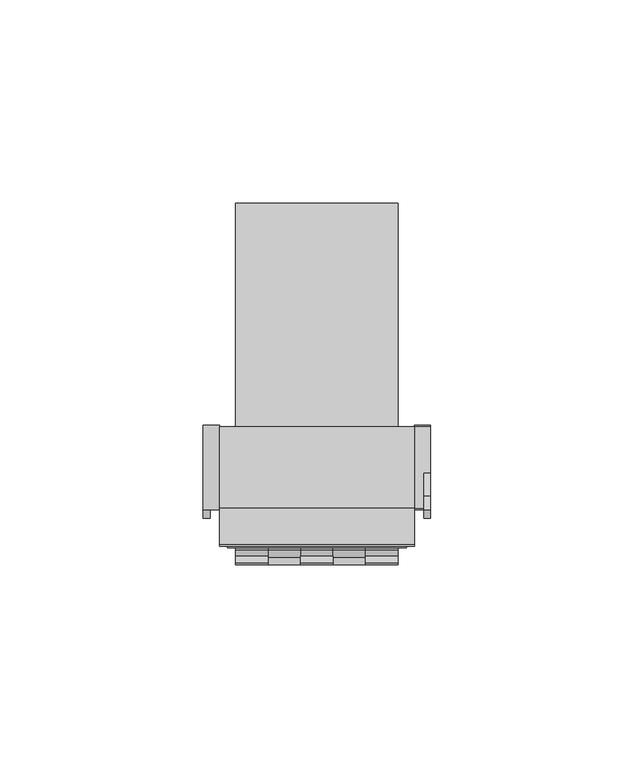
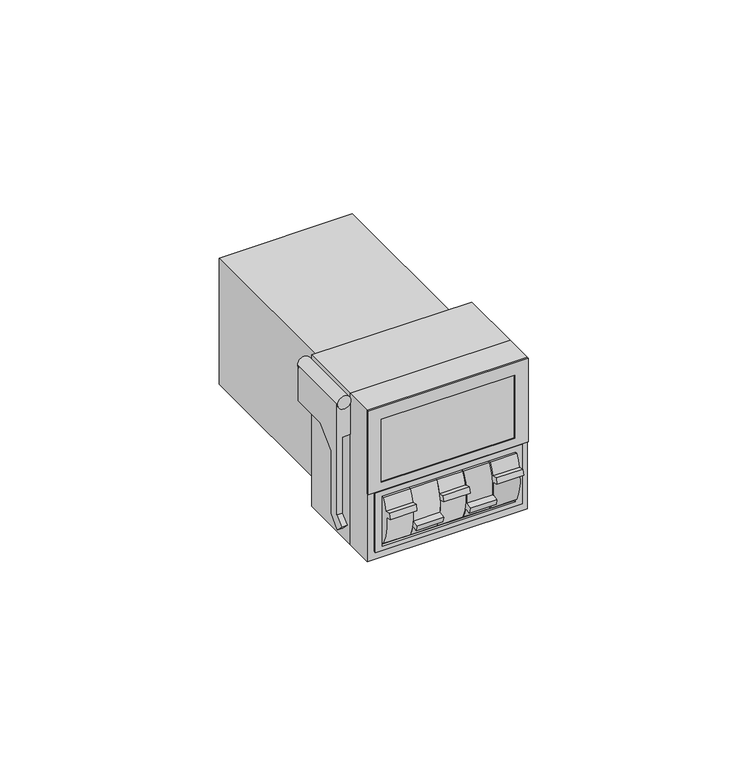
"""IFC4 building model written with IfcOpenShell, lengths in millimetres: proxy geometry, TDM_РЕЛЕ ВРЕМЕНИ ЦОКОЛЬНЫЙ СЕРИИ РВ41 : РВ41-0.1-сек/9990 час -5 А-220 В-8Ц/Щ."""

from ifc_helpers import new_model, si_unit, point, frame, frame_2d, origin, place, context, project, spatial, polyline, circle_curve, trimmed, segment, composite_curve, outline, extrude, source, transform, mapped, element, save
from ifc_brep_helpers import plane_surface, cylinder_surface, advanced_brep


def electrical_equipment_21c6b45f(model_context):
    return source(origin(), model_context, "Body", "SolidModel", [
        advanced_brep(
        [(-24.0, -37.8841067, 22.0), (-28.0, -37.8841067, 22.0), (-24.0, -17.0898511, 22.0), (-28.0, -17.0898511, 22.0), (-24.0, -37.5, 22.0), (-24.0, -17.5, 22.0), (-28.0, -17.5, 22.0), (-28.0, -37.5, 22.0), (-28.0, -37.5, -13.1679558), (-26.3404122, -37.5, -13.1679558), (-26.3404122, -37.5, 10.9220443), (-24.0, -37.5, 10.9220443), (-24.0, -17.5, 10.9220443), (-28.0, -17.5, 10.9220443), (-28.0, -28.9394284, 10.9220443), (-28.0, -34.5, 5.3614727), (-28.0, -34.5, -14.4105965), (-28.0, -37.8389449, -17.7495415), (-28.0, -39.9602653, -15.6282211), (-26.3404122, -28.9394284, 10.9220443), (-26.3404122, -34.5, 5.3614727), (-26.3404122, -39.9602653, -15.6282211), (-26.3404122, -37.8389449, -17.7495415), (-26.3404122, -34.5, -14.4105965)],
        [
            (0, 1, circle_curve(frame((-26.0, -37.8841067, 22.0), z_axis=(0.0, -1.0, 0.0), x_axis=(-1.0, 0.0, 0.0)), 2.0)),
            (1, 0, circle_curve(frame((-26.0, -37.8841067, 22.0), z_axis=(0.0, -1.0, 0.0), x_axis=(-1.0, 0.0, 0.0)), 2.0)),
            (2, 3, circle_curve(frame((-26.0, -17.0898511, 22.0), z_axis=(0.0, 1.0, 0.0), x_axis=(-1.0, 0.0, 0.0)), 2.0)),
            (3, 2, circle_curve(frame((-26.0, -17.0898511, 22.0), z_axis=(0.0, 1.0, 0.0), x_axis=(-1.0, 0.0, 0.0)), 2.0)),
            (0, 4),
            (4, 5),
            (5, 2),
            (3, 6),
            (6, 7),
            (7, 1),
            (7, 4, circle_curve(frame((-26.0, -37.5, 22.0), z_axis=(0.0, -1.0, 0.0), x_axis=(-1.0, 0.0, 0.0)), 2.0)),
            (5, 6, circle_curve(frame((-26.0, -17.5, 22.0), z_axis=(0.0, 1.0, 0.0), x_axis=(-1.0, 0.0, 0.0)), 2.0)),
            (8, 9),
            (9, 10),
            (10, 11),
            (11, 4),
            (7, 8),
            (5, 12),
            (12, 13),
            (13, 6),
            (13, 14),
            (14, 15),
            (15, 16),
            (16, 17),
            (17, 18),
            (18, 8),
            (12, 11),
            (10, 19),
            (19, 14),
            (20, 19),
            (9, 21),
            (21, 22),
            (22, 23),
            (23, 20),
            (15, 20),
            (23, 16),
            (22, 17),
            (21, 18),
        ],
        [
            plane_surface(frame((-28.0, -37.8841067, 22.0), z_axis=(0.0, -1.0, 0.0), x_axis=(0.0, 0.0, -1.0))),
            plane_surface(frame((-28.0, -17.0898511, 22.0), z_axis=(0.0, 1.0, 0.0), x_axis=(0.0, 0.0, 1.0))),
            cylinder_surface(frame((-26.0, -17.0898511, 22.0), z_axis=(0.0, -1.0, 0.0), x_axis=(-1.0, 0.0, 0.0)), 2.0),
            plane_surface(frame((-28.0, -37.5, 20.9220443), z_axis=(0.0, -1.0, 0.0), x_axis=(0.0, 0.0, -1.0))),
            plane_surface(frame((-28.0, -17.5, 20.9220443), z_axis=(0.0, 1.0, 0.0), x_axis=(0.0, 0.0, 1.0))),
            plane_surface(frame((-28.0, -37.5, 21.9810334), z_axis=(-1.0, 0.0, 0.0), x_axis=(0.0, 1.0, 0.0))),
            plane_surface(frame((-28.0, -37.5, 10.9220443), z_axis=(0.0, 0.0, -1.0), x_axis=(0.0, 1.0, 0.0))),
            plane_surface(frame((-24.0, -37.5, 10.9220443), z_axis=(1.0, 0.0, 0.0), x_axis=(0.0, 1.0, 0.0))),
            plane_surface(frame((-26.3404122, -34.5, 5.9979726), z_axis=(1.0, 0.0, 0.0), x_axis=(0.0, 0.0, 1.0))),
            plane_surface(frame((-28.0, -34.5, 5.3614727), z_axis=(0.0, 1.0, 0.0), x_axis=(1.0, 0.0, 0.0))),
            plane_surface(frame((-28.0, -34.5, -14.4105965), z_axis=(0.0, 0.7071067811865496, -0.7071067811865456), x_axis=(1.0, 0.0, 0.0))),
            plane_surface(frame((-28.0, -37.8389449, -17.7495415), z_axis=(0.0, -0.7071067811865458, -0.7071067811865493), x_axis=(1.0, 0.0, 0.0))),
            plane_surface(frame((-28.0, -39.9602653, -15.6282211), z_axis=(0.0, -0.7071067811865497, 0.7071067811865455), x_axis=(1.0, 0.0, 0.0))),
            plane_surface(frame((-28.0, -28.9394284, 10.9220443), z_axis=(0.0, 0.7071067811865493, -0.7071067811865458), x_axis=(1.0, 0.0, 0.0))),
        ],
        [
            (0, [[1, 2]]),
            (1, [[3, 4]]),
            (2, [[-1, 5, 6, 7, -4, 8, 9, 10]]),
            (2, [[-2, -10, 11, -5]]),
            (2, [[-3, -7, 12, -8]]),
            (3, [[13, 14, 15, 16, -11, 17]]),
            (4, [[18, 19, 20, -12]]),
            (5, [[-17, -9, -20, 21, 22, 23, 24, 25, 26]]),
            (6, [[-19, 27, -15, 28, 29, -21]]),
            (7, [[-16, -27, -18, -6]]),
            (8, [[30, -28, -14, 31, 32, 33, 34]]),
            (9, [[-23, 35, -34, 36]]),
            (10, [[-24, -36, -33, 37]]),
            (11, [[-25, -37, -32, 38]]),
            (12, [[-26, -38, -31, -13]]),
            (13, [[-22, -29, -30, -35]]),
        ],
    ),
        advanced_brep(
        [(28.0, -34.5, -5.3614727), (28.0, -34.5, 14.4105965), (28.0, -37.8389449, 17.7495415), (28.0, -39.9602653, 15.6282211), (28.0, -37.5, 13.1679558), (28.0, -37.5, -21.9810334), (28.0, -17.5, -22.0), (28.0, -17.5, -10.9220443), (28.0, -28.9394284, -10.9220443), (26.3404122, -34.5, -5.3614727), (26.3404122, -28.9394284, -10.9220443), (26.3404122, -37.5, -10.9220443), (26.3404122, -37.5, 13.1679558), (26.3404122, -39.9602653, 15.6282211), (26.3404122, -37.8389449, 17.7495415), (26.3404122, -34.5, 14.4105965), (24.0, -37.5, -10.9220443), (24.0, -37.5, -21.9810334), (24.0, -17.5, -21.9810334), (24.0, -17.5, -10.9220443), (24.0, -37.8841067, -22.0), (28.0, -37.8841067, -22.0), (24.0, -17.0898511, -22.0), (28.0, -17.0898511, -22.0)],
        [
            (0, 1),
            (1, 2),
            (2, 3),
            (3, 4),
            (4, 5),
            (5, 6),
            (6, 7),
            (7, 8),
            (8, 0),
            (9, 10),
            (10, 11),
            (11, 12),
            (12, 13),
            (13, 14),
            (14, 15),
            (15, 9),
            (0, 9),
            (15, 1),
            (14, 2),
            (13, 3),
            (12, 4),
            (11, 16),
            (16, 17),
            (17, 5, circle_curve(frame((26.0, -37.5, -22.0), z_axis=(0.0, 1.0, 0.0), x_axis=(1.0, 0.0, 0.0)), 2.0)),
            (8, 10),
            (18, 19),
            (19, 7),
            (6, 18, circle_curve(frame((26.0, -17.5, -22.0), z_axis=(0.0, -1.0, 0.0), x_axis=(1.0, 0.0, 0.0)), 2.0)),
            (19, 16),
            (18, 17),
            (20, 21, circle_curve(frame((26.0, -37.8841067, -22.0), z_axis=(0.0, -1.0, 0.0), x_axis=(1.0, 0.0, 0.0)), 2.0)),
            (21, 20, circle_curve(frame((26.0, -37.8841067, -22.0), z_axis=(0.0, -1.0, 0.0), x_axis=(1.0, 0.0, 0.0)), 2.0)),
            (22, 23, circle_curve(frame((26.0, -17.0898511, -22.0), z_axis=(0.0, 1.0, 0.0), x_axis=(1.0, 0.0, 0.0)), 2.0)),
            (23, 22, circle_curve(frame((26.0, -17.0898511, -22.0), z_axis=(0.0, 1.0, 0.0), x_axis=(1.0, 0.0, 0.0)), 2.0)),
            (20, 17),
            (18, 22),
            (23, 6),
            (5, 21),
        ],
        [
            plane_surface(frame((28.0, -34.5, -5.9979726), z_axis=(1.0, 0.0, 0.0), x_axis=(0.0, 0.0, 1.0))),
            plane_surface(frame((26.3404122, -34.5, -5.9979726), z_axis=(-1.0, 0.0, 0.0), x_axis=(0.0, 0.0, -1.0))),
            plane_surface(frame((28.0, -34.5, -5.3614727), z_axis=(0.0, 1.0, 0.0), x_axis=(-1.0, 0.0, 0.0))),
            plane_surface(frame((28.0, -34.5, 14.4105965), z_axis=(0.0, 0.7071067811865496, 0.7071067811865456), x_axis=(-1.0, 0.0, 0.0))),
            plane_surface(frame((28.0, -37.8389449, 17.7495415), z_axis=(0.0, -0.7071067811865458, 0.7071067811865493), x_axis=(-1.0, 0.0, 0.0))),
            plane_surface(frame((28.0, -39.9602653, 15.6282211), z_axis=(0.0, -0.707106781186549, -0.707106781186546), x_axis=(-1.0, 0.0, 0.0))),
            plane_surface(frame((28.0, -37.5, 13.1679558), z_axis=(0.0, -1.0, 0.0), x_axis=(-1.0, 0.0, 0.0))),
            plane_surface(frame((28.0, -28.9394284, -10.9220443), z_axis=(0.0, 0.7071067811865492, 0.7071067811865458), x_axis=(-1.0, 0.0, 0.0))),
            plane_surface(frame((28.0, -17.5, -20.9220443), z_axis=(0.0, 1.0, 0.0), x_axis=(0.0, 0.0, -1.0))),
            plane_surface(frame((28.0, -37.5, -10.9220443), z_axis=(0.0, 0.0, 1.0), x_axis=(0.0, 1.0, 0.0))),
            plane_surface(frame((24.0, -37.5, -10.9220443), z_axis=(-1.0, 0.0, 0.0), x_axis=(0.0, 1.0, 0.0))),
            plane_surface(frame((28.0, -37.8841067, -22.0), z_axis=(0.0, -1.0, 0.0), x_axis=(0.0, 0.0, 1.0))),
            plane_surface(frame((28.0, -17.0898511, -22.0), z_axis=(0.0, 1.0, 0.0), x_axis=(0.0, 0.0, -1.0))),
            cylinder_surface(frame((26.0, -17.0898511, -22.0), z_axis=(0.0, -1.0, 0.0), x_axis=(1.0, 0.0, 0.0)), 2.0),
        ],
        [
            (0, [[1, 2, 3, 4, 5, 6, 7, 8, 9]]),
            (1, [[10, 11, 12, 13, 14, 15, 16]]),
            (2, [[-1, 17, -16, 18]]),
            (3, [[-2, -18, -15, 19]]),
            (4, [[-3, -19, -14, 20]]),
            (5, [[-4, -20, -13, 21]]),
            (6, [[-12, 22, 23, 24, -5, -21]]),
            (7, [[-9, 25, -10, -17]]),
            (8, [[26, 27, -7, 28]]),
            (9, [[-27, 29, -22, -11, -25, -8]]),
            (10, [[-23, -29, -26, 30]]),
            (11, [[31, 32]]),
            (12, [[33, 34]]),
            (13, [[-31, 35, -30, 36, -34, 37, -6, 38]]),
            (13, [[-32, -38, -24, -35]]),
            (13, [[-33, -36, -28, -37]]),
        ],
    ),
        extrude(outline(polyline([(24.0, 24.0), (24.0, -24.0), (-2.5006049, -24.0), (-2.5006049, 24.0), (24.0, 24.0)]), holes=[polyline([(20.0, 20.0), (0.0, 20.0), (0.0, -20.0), (20.0, -20.0), (20.0, 20.0)])]), frame((0.0, -46.8157674, 0.0), z_axis=(0.0, 1.0, 0.0), x_axis=(0.0, 0.0, 1.0)), (0.0, 0.0, 1.0), 0.3157674),
        extrude(outline(polyline([(-2.5006049, 22.0), (-2.5006049, -22.0), (-21.3695656, -22.0), (-21.3695656, 22.0), (-2.5006049, 22.0)]), holes=[polyline([(-4.1980754, 20.0), (-20.0, 20.0), (-20.0, -20.0), (-4.1980754, -20.0), (-4.1980754, 20.0)])]), frame((0.0, -47.1688057, 0.0), z_axis=(0.0, 1.0, 0.0), x_axis=(0.0, 0.0, 1.0)), (0.0, 0.0, 1.0), 0.6688057),
        extrude(outline(composite_curve([segment(polyline([(-47.8583606, -4.1980754), (-46.5, -4.1980754), (-46.5, -18.7354039), (-47.8583606, -18.7354039)]), True, "CONTINUOUS"), segment(trimmed(circle_curve(frame_2d((-34.0933347, -11.4667396)), 15.566291), [point((-47.8583606, -18.7354039))], [point((-49.5352667, -9.5030303))], False, "CARTESIAN"), True, "CONTINUOUS"), segment(polyline([(-49.5352667, -9.5030303), (-51.3973711, -9.0446218), (-50.9708091, -7.3118818), (-49.2083513, -7.7457596)]), True, "CONTINUOUS"), segment(trimmed(circle_curve(frame_2d((-34.0933347, -11.4667396)), 15.566291), [point((-49.2083513, -7.7457596))], [point((-47.8583606, -4.1980754))], False, "CARTESIAN"), True, "CONTINUOUS")], self_intersect=False)), frame((-20.0, 0.0, 0.0), z_axis=(1.0, 0.0, 0.0), x_axis=(0.0, 1.0, 0.0)), (0.0, 0.0, 1.0), 8.0),
        extrude(outline(composite_curve([segment(trimmed(circle_curve(frame_2d((-34.0933347, -11.4667396)), 15.566291), [point((-47.8583606, -18.7354039))], [point((-49.2083513, -15.1877197))], False, "CARTESIAN"), True, "CONTINUOUS"), segment(polyline([(-49.2083513, -15.1877197), (-50.9708091, -15.6215975), (-51.3973711, -13.8888575), (-49.5352667, -13.4304489)]), True, "CONTINUOUS"), segment(trimmed(circle_curve(frame_2d((-34.0933347, -11.4667396)), 15.566291), [point((-49.5352667, -13.4304489))], [point((-47.8583606, -4.1980754))], False, "CARTESIAN"), True, "CONTINUOUS"), segment(polyline([(-47.8583606, -4.1980754), (-46.5, -4.1980754), (-46.5, -18.7354039), (-47.8583606, -18.7354039)]), True, "CONTINUOUS")], self_intersect=False)), frame((-12.0, 0.0, 0.0), z_axis=(1.0, 0.0, 0.0), x_axis=(0.0, 1.0, 0.0)), (0.0, 0.0, 1.0), 8.0),
        extrude(outline(composite_curve([segment(polyline([(-47.8583606, -4.1980754), (-46.5, -4.1980754), (-46.5, -18.7354039), (-47.8583606, -18.7354039)]), True, "CONTINUOUS"), segment(trimmed(circle_curve(frame_2d((-34.0933347, -11.4667396)), 15.566291), [point((-47.8583606, -18.7354039))], [point((-49.5352667, -9.5030303))], False, "CARTESIAN"), True, "CONTINUOUS"), segment(polyline([(-49.5352667, -9.5030303), (-51.3973711, -9.0446218), (-50.9708091, -7.3118818), (-49.2083513, -7.7457596)]), True, "CONTINUOUS"), segment(trimmed(circle_curve(frame_2d((-34.0933347, -11.4667396)), 15.566291), [point((-49.2083513, -7.7457596))], [point((-47.8583606, -4.1980754))], False, "CARTESIAN"), True, "CONTINUOUS")], self_intersect=False)), frame((12.0, 0.0, 0.0), z_axis=(1.0, 0.0, 0.0), x_axis=(0.0, 1.0, 0.0)), (0.0, 0.0, 1.0), 8.0),
        extrude(outline(composite_curve([segment(trimmed(circle_curve(frame_2d((-34.0933347, -11.4667396)), 15.566291), [point((-47.8583606, -18.7354039))], [point((-49.2083513, -15.1877197))], False, "CARTESIAN"), True, "CONTINUOUS"), segment(polyline([(-49.2083513, -15.1877197), (-50.9708091, -15.6215975), (-51.3973711, -13.8888575), (-49.5352667, -13.4304489)]), True, "CONTINUOUS"), segment(trimmed(circle_curve(frame_2d((-34.0933347, -11.4667396)), 15.566291), [point((-49.5352667, -13.4304489))], [point((-47.8583606, -4.1980754))], False, "CARTESIAN"), True, "CONTINUOUS"), segment(polyline([(-47.8583606, -4.1980754), (-46.5, -4.1980754), (-46.5, -18.7354039), (-47.8583606, -18.7354039)]), True, "CONTINUOUS")], self_intersect=False)), frame((4.0, 0.0, 0.0), z_axis=(1.0, 0.0, 0.0), x_axis=(0.0, 1.0, 0.0)), (0.0, 0.0, 1.0), 8.0),
        extrude(outline(polyline([(24.0, -37.5), (24.0, -46.5), (-24.0, -46.5), (-24.0, -37.5), (24.0, -37.5)])), frame((0.0, 0.0, -24.0), z_axis=(0.0, 0.0, 1.0), x_axis=(1.0, 0.0, 0.0)), (0.0, 0.0, 1.0), 48.0),
        extrude(outline(polyline([(24.0, -17.5), (24.0, -37.5), (-24.0, -37.5), (-24.0, -17.5), (24.0, -17.5)])), frame((0.0, 0.0, -24.0), z_axis=(0.0, 0.0, 1.0), x_axis=(1.0, 0.0, 0.0)), (0.0, 0.0, 1.0), 48.0),
        extrude(outline(polyline([(20.0, 37.5), (20.0, -17.5), (-20.0, -17.5), (-20.0, 37.5), (20.0, 37.5)])), frame((0.0, 0.0, -20.0), z_axis=(0.0, 0.0, 1.0), x_axis=(1.0, 0.0, 0.0)), (0.0, 0.0, 1.0), 40.0),
        extrude(outline(composite_curve([segment(polyline([(-47.8583606, -4.1980754), (-46.5, -4.1980754), (-46.5, -18.7354039), (-47.8583606, -18.7354039)]), True, "CONTINUOUS"), segment(trimmed(circle_curve(frame_2d((-34.0933347, -11.4667396)), 15.566291), [point((-47.8583606, -18.7354039))], [point((-49.5352667, -9.5030303))], False, "CARTESIAN"), True, "CONTINUOUS"), segment(polyline([(-49.5352667, -9.5030303), (-51.3973711, -9.0446218), (-50.9708091, -7.3118818), (-49.2083513, -7.7457596)]), True, "CONTINUOUS"), segment(trimmed(circle_curve(frame_2d((-34.0933347, -11.4667396)), 15.566291), [point((-49.2083513, -7.7457596))], [point((-47.8583606, -4.1980754))], False, "CARTESIAN"), True, "CONTINUOUS")], self_intersect=False)), frame((-4.0, 0.0, 0.0), z_axis=(1.0, 0.0, 0.0), x_axis=(0.0, 1.0, 0.0)), (0.0, 0.0, 1.0), 8.0),
        advanced_brep(
        [(-24.0, -37.8841067, 22.0), (-28.0, -37.8841067, 22.0), (-24.0, -17.0898511, 22.0), (-28.0, -17.0898511, 22.0), (-24.0, -37.5, 22.0), (-24.0, -17.5, 22.0), (-28.0, -17.5, 22.0), (-28.0, -37.5, 22.0), (-28.0, -37.5, -13.1679558), (-26.3404122, -37.5, -13.1679558), (-26.3404122, -37.5, 10.9220443), (-24.0, -37.5, 10.9220443), (-24.0, -17.5, 10.9220443), (-28.0, -17.5, 10.9220443), (-28.0, -28.9394284, 10.9220443), (-28.0, -34.5, 5.3614727), (-28.0, -34.5, -14.4105965), (-28.0, -37.8389449, -17.7495415), (-28.0, -39.9602653, -15.6282211), (-26.3404122, -28.9394284, 10.9220443), (-26.3404122, -34.5, 5.3614727), (-26.3404122, -39.9602653, -15.6282211), (-26.3404122, -37.8389449, -17.7495415), (-26.3404122, -34.5, -14.4105965)],
        [
            (0, 1, circle_curve(frame((-26.0, -37.8841067, 22.0), z_axis=(0.0, -1.0, 0.0), x_axis=(-1.0, 0.0, 0.0)), 2.0)),
            (1, 0, circle_curve(frame((-26.0, -37.8841067, 22.0), z_axis=(0.0, -1.0, 0.0), x_axis=(-1.0, 0.0, 0.0)), 2.0)),
            (2, 3, circle_curve(frame((-26.0, -17.0898511, 22.0), z_axis=(0.0, 1.0, 0.0), x_axis=(-1.0, 0.0, 0.0)), 2.0)),
            (3, 2, circle_curve(frame((-26.0, -17.0898511, 22.0), z_axis=(0.0, 1.0, 0.0), x_axis=(-1.0, 0.0, 0.0)), 2.0)),
            (0, 4),
            (4, 5),
            (5, 2),
            (3, 6),
            (6, 7),
            (7, 1),
            (7, 4, circle_curve(frame((-26.0, -37.5, 22.0), z_axis=(0.0, -1.0, 0.0), x_axis=(-1.0, 0.0, 0.0)), 2.0)),
            (5, 6, circle_curve(frame((-26.0, -17.5, 22.0), z_axis=(0.0, 1.0, 0.0), x_axis=(-1.0, 0.0, 0.0)), 2.0)),
            (8, 9),
            (9, 10),
            (10, 11),
            (11, 4),
            (7, 8),
            (5, 12),
            (12, 13),
            (13, 6),
            (13, 14),
            (14, 15),
            (15, 16),
            (16, 17),
            (17, 18),
            (18, 8),
            (12, 11),
            (10, 19),
            (19, 14),
            (20, 19),
            (9, 21),
            (21, 22),
            (22, 23),
            (23, 20),
            (15, 20),
            (23, 16),
            (22, 17),
            (21, 18),
        ],
        [
            plane_surface(frame((-28.0, -37.8841067, 22.0), z_axis=(0.0, -1.0, 0.0), x_axis=(0.0, 0.0, -1.0))),
            plane_surface(frame((-28.0, -17.0898511, 22.0), z_axis=(0.0, 1.0, 0.0), x_axis=(0.0, 0.0, 1.0))),
            cylinder_surface(frame((-26.0, -17.0898511, 22.0), z_axis=(0.0, -1.0, 0.0), x_axis=(-1.0, 0.0, 0.0)), 2.0),
            plane_surface(frame((-28.0, -37.5, 20.9220443), z_axis=(0.0, -1.0, 0.0), x_axis=(0.0, 0.0, -1.0))),
            plane_surface(frame((-28.0, -17.5, 20.9220443), z_axis=(0.0, 1.0, 0.0), x_axis=(0.0, 0.0, 1.0))),
            plane_surface(frame((-28.0, -37.5, 21.9810334), z_axis=(-1.0, 0.0, 0.0), x_axis=(0.0, 1.0, 0.0))),
            plane_surface(frame((-28.0, -37.5, 10.9220443), z_axis=(0.0, 0.0, -1.0), x_axis=(0.0, 1.0, 0.0))),
            plane_surface(frame((-24.0, -37.5, 10.9220443), z_axis=(1.0, 0.0, 0.0), x_axis=(0.0, 1.0, 0.0))),
            plane_surface(frame((-26.3404122, -34.5, 5.9979726), z_axis=(1.0, 0.0, 0.0), x_axis=(0.0, 0.0, 1.0))),
            plane_surface(frame((-28.0, -34.5, 5.3614727), z_axis=(0.0, 1.0, 0.0), x_axis=(1.0, 0.0, 0.0))),
            plane_surface(frame((-28.0, -34.5, -14.4105965), z_axis=(0.0, 0.7071067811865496, -0.7071067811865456), x_axis=(1.0, 0.0, 0.0))),
            plane_surface(frame((-28.0, -37.8389449, -17.7495415), z_axis=(0.0, -0.7071067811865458, -0.7071067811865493), x_axis=(1.0, 0.0, 0.0))),
            plane_surface(frame((-28.0, -39.9602653, -15.6282211), z_axis=(0.0, -0.7071067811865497, 0.7071067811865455), x_axis=(1.0, 0.0, 0.0))),
            plane_surface(frame((-28.0, -28.9394284, 10.9220443), z_axis=(0.0, 0.7071067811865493, -0.7071067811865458), x_axis=(1.0, 0.0, 0.0))),
        ],
        [
            (0, [[1, 2]]),
            (1, [[3, 4]]),
            (2, [[-1, 5, 6, 7, -4, 8, 9, 10]]),
            (2, [[-2, -10, 11, -5]]),
            (2, [[-3, -7, 12, -8]]),
            (3, [[13, 14, 15, 16, -11, 17]]),
            (4, [[18, 19, 20, -12]]),
            (5, [[-17, -9, -20, 21, 22, 23, 24, 25, 26]]),
            (6, [[-19, 27, -15, 28, 29, -21]]),
            (7, [[-16, -27, -18, -6]]),
            (8, [[30, -28, -14, 31, 32, 33, 34]]),
            (9, [[-23, 35, -34, 36]]),
            (10, [[-24, -36, -33, 37]]),
            (11, [[-25, -37, -32, 38]]),
            (12, [[-26, -38, -31, -13]]),
            (13, [[-22, -29, -30, -35]]),
        ],
    ),
        advanced_brep(
        [(28.0, -34.5, -5.3614727), (28.0, -34.5, 14.4105965), (28.0, -37.8389449, 17.7495415), (28.0, -39.9602653, 15.6282211), (28.0, -37.5, 13.1679558), (28.0, -37.5, -21.9810334), (28.0, -17.5, -22.0), (28.0, -17.5, -10.9220443), (28.0, -28.9394284, -10.9220443), (26.3404122, -34.5, -5.3614727), (26.3404122, -28.9394284, -10.9220443), (26.3404122, -37.5, -10.9220443), (26.3404122, -37.5, 13.1679558), (26.3404122, -39.9602653, 15.6282211), (26.3404122, -37.8389449, 17.7495415), (26.3404122, -34.5, 14.4105965), (24.0, -37.5, -10.9220443), (24.0, -37.5, -21.9810334), (24.0, -17.5, -21.9810334), (24.0, -17.5, -10.9220443), (24.0, -37.8841067, -22.0), (28.0, -37.8841067, -22.0), (24.0, -17.0898511, -22.0), (28.0, -17.0898511, -22.0)],
        [
            (0, 1),
            (1, 2),
            (2, 3),
            (3, 4),
            (4, 5),
            (5, 6),
            (6, 7),
            (7, 8),
            (8, 0),
            (9, 10),
            (10, 11),
            (11, 12),
            (12, 13),
            (13, 14),
            (14, 15),
            (15, 9),
            (0, 9),
            (15, 1),
            (14, 2),
            (13, 3),
            (12, 4),
            (11, 16),
            (16, 17),
            (17, 5, circle_curve(frame((26.0, -37.5, -22.0), z_axis=(0.0, 1.0, 0.0), x_axis=(1.0, 0.0, 0.0)), 2.0)),
            (8, 10),
            (18, 19),
            (19, 7),
            (6, 18, circle_curve(frame((26.0, -17.5, -22.0), z_axis=(0.0, -1.0, 0.0), x_axis=(1.0, 0.0, 0.0)), 2.0)),
            (19, 16),
            (18, 17),
            (20, 21, circle_curve(frame((26.0, -37.8841067, -22.0), z_axis=(0.0, -1.0, 0.0), x_axis=(1.0, 0.0, 0.0)), 2.0)),
            (21, 20, circle_curve(frame((26.0, -37.8841067, -22.0), z_axis=(0.0, -1.0, 0.0), x_axis=(1.0, 0.0, 0.0)), 2.0)),
            (22, 23, circle_curve(frame((26.0, -17.0898511, -22.0), z_axis=(0.0, 1.0, 0.0), x_axis=(1.0, 0.0, 0.0)), 2.0)),
            (23, 22, circle_curve(frame((26.0, -17.0898511, -22.0), z_axis=(0.0, 1.0, 0.0), x_axis=(1.0, 0.0, 0.0)), 2.0)),
            (20, 17),
            (18, 22),
            (23, 6),
            (5, 21),
        ],
        [
            plane_surface(frame((28.0, -34.5, -5.9979726), z_axis=(1.0, 0.0, 0.0), x_axis=(0.0, 0.0, 1.0))),
            plane_surface(frame((26.3404122, -34.5, -5.9979726), z_axis=(-1.0, 0.0, 0.0), x_axis=(0.0, 0.0, -1.0))),
            plane_surface(frame((28.0, -34.5, -5.3614727), z_axis=(0.0, 1.0, 0.0), x_axis=(-1.0, 0.0, 0.0))),
            plane_surface(frame((28.0, -34.5, 14.4105965), z_axis=(0.0, 0.7071067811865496, 0.7071067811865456), x_axis=(-1.0, 0.0, 0.0))),
            plane_surface(frame((28.0, -37.8389449, 17.7495415), z_axis=(0.0, -0.7071067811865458, 0.7071067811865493), x_axis=(-1.0, 0.0, 0.0))),
            plane_surface(frame((28.0, -39.9602653, 15.6282211), z_axis=(0.0, -0.707106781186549, -0.707106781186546), x_axis=(-1.0, 0.0, 0.0))),
            plane_surface(frame((28.0, -37.5, 13.1679558), z_axis=(0.0, -1.0, 0.0), x_axis=(-1.0, 0.0, 0.0))),
            plane_surface(frame((28.0, -28.9394284, -10.9220443), z_axis=(0.0, 0.7071067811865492, 0.7071067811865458), x_axis=(-1.0, 0.0, 0.0))),
            plane_surface(frame((28.0, -17.5, -20.9220443), z_axis=(0.0, 1.0, 0.0), x_axis=(0.0, 0.0, -1.0))),
            plane_surface(frame((28.0, -37.5, -10.9220443), z_axis=(0.0, 0.0, 1.0), x_axis=(0.0, 1.0, 0.0))),
            plane_surface(frame((24.0, -37.5, -10.9220443), z_axis=(-1.0, 0.0, 0.0), x_axis=(0.0, 1.0, 0.0))),
            plane_surface(frame((28.0, -37.8841067, -22.0), z_axis=(0.0, -1.0, 0.0), x_axis=(0.0, 0.0, 1.0))),
            plane_surface(frame((28.0, -17.0898511, -22.0), z_axis=(0.0, 1.0, 0.0), x_axis=(0.0, 0.0, -1.0))),
            cylinder_surface(frame((26.0, -17.0898511, -22.0), z_axis=(0.0, -1.0, 0.0), x_axis=(1.0, 0.0, 0.0)), 2.0),
        ],
        [
            (0, [[1, 2, 3, 4, 5, 6, 7, 8, 9]]),
            (1, [[10, 11, 12, 13, 14, 15, 16]]),
            (2, [[-1, 17, -16, 18]]),
            (3, [[-2, -18, -15, 19]]),
            (4, [[-3, -19, -14, 20]]),
            (5, [[-4, -20, -13, 21]]),
            (6, [[-12, 22, 23, 24, -5, -21]]),
            (7, [[-9, 25, -10, -17]]),
            (8, [[26, 27, -7, 28]]),
            (9, [[-27, 29, -22, -11, -25, -8]]),
            (10, [[-23, -29, -26, 30]]),
            (11, [[31, 32]]),
            (12, [[33, 34]]),
            (13, [[-31, 35, -30, 36, -34, 37, -6, 38]]),
            (13, [[-32, -38, -24, -35]]),
            (13, [[-33, -36, -28, -37]]),
        ],
    ),
        extrude(outline(polyline([(24.0, 24.0), (24.0, -24.0), (-2.5006049, -24.0), (-2.5006049, 24.0), (24.0, 24.0)]), holes=[polyline([(20.0, 20.0), (0.0, 20.0), (0.0, -20.0), (20.0, -20.0), (20.0, 20.0)])]), frame((0.0, -46.8157674, 0.0), z_axis=(0.0, 1.0, 0.0), x_axis=(0.0, 0.0, 1.0)), (0.0, 0.0, 1.0), 0.3157674),
        extrude(outline(polyline([(-2.5006049, 22.0), (-2.5006049, -22.0), (-21.3695656, -22.0), (-21.3695656, 22.0), (-2.5006049, 22.0)]), holes=[polyline([(-4.1980754, 20.0), (-20.0, 20.0), (-20.0, -20.0), (-4.1980754, -20.0), (-4.1980754, 20.0)])]), frame((0.0, -47.1688057, 0.0), z_axis=(0.0, 1.0, 0.0), x_axis=(0.0, 0.0, 1.0)), (0.0, 0.0, 1.0), 0.6688057),
        extrude(outline(polyline([(24.0, -37.5), (24.0, -46.5), (-24.0, -46.5), (-24.0, -37.5), (24.0, -37.5)])), frame((0.0, 0.0, -24.0), z_axis=(0.0, 0.0, 1.0), x_axis=(1.0, 0.0, 0.0)), (0.0, 0.0, 1.0), 48.0),
        extrude(outline(polyline([(24.0, -17.5), (24.0, -37.5), (-24.0, -37.5), (-24.0, -17.5), (24.0, -17.5)])), frame((0.0, 0.0, -24.0), z_axis=(0.0, 0.0, 1.0), x_axis=(1.0, 0.0, 0.0)), (0.0, 0.0, 1.0), 48.0),
        extrude(outline(polyline([(20.0, 37.5), (20.0, -17.5), (-20.0, -17.5), (-20.0, 37.5), (20.0, 37.5)])), frame((0.0, 0.0, -20.0), z_axis=(0.0, 0.0, 1.0), x_axis=(1.0, 0.0, 0.0)), (0.0, 0.0, 1.0), 40.0),
    ])


if __name__ == "__main__":
    model = new_model("IFC4")
    model_context = context("Model", 3, world=origin())
    ifc_project = project(units=[si_unit("LENGTHUNIT", "METRE", prefix="MILLI")], contexts=[model_context])
    site = spatial("IfcSite", under=ifc_project)
    building = spatial("IfcBuilding", under=site)
    placement = place(None, origin())
    electrical_equipment_shape = electrical_equipment_21c6b45f(model_context)
    element("IfcBuildingElementProxy", 1, Name="TDM_РЕЛЕ ВРЕМЕНИ ЦОКОЛЬНЫЙ СЕРИИ РВ41 : РВ41-0.1-сек/9990 час -5 А-220 В-8Ц/Щ", ObjectType="TDM_РЕЛЕ ВРЕМЕНИ ЦОКОЛЬНЫЙ СЕРИИ РВ41 : РВ41-0.1-сек/9990 час -5 А-220 В-8Ц/Щ", at=placement, inside=building, context=model_context, shape_type="MappedRepresentation", body=[
        mapped(electrical_equipment_shape, transform((0.0, 0.0, 0.0), x_axis=(1.0, 0.0, 0.0), y_axis=(0.0, 1.0, 0.0), z_axis=(0.0, 0.0, 1.0))),
    ])
    save(model, "model.ifc")
